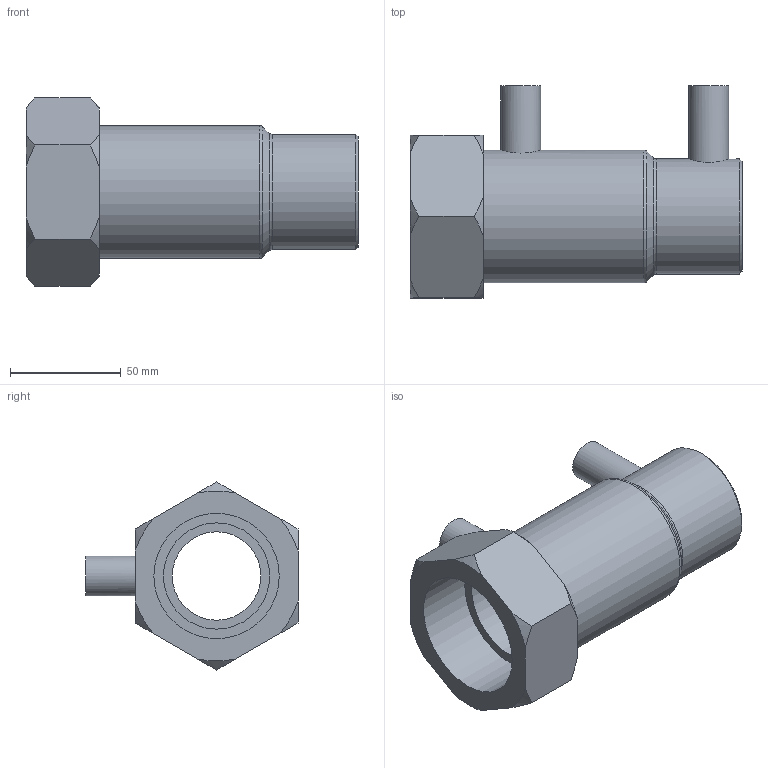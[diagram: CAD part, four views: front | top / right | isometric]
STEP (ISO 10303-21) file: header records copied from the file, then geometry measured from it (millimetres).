
FILE_DESCRIPTION(/* description */ ('Plasson Female Transition Reducer 40 x 2"'),/* implementation_level */ '2;1');
FILE_NAME(/* name */ 'C:\Dropbox\99-16-3568-Processing\ElectroFusion Fittings\493104-R\493104040020.ipt.stp',/* time_stamp */ '2021-03-07T20:11:19+02:00',/* author */ ('Lenora'),/* organization */ (''),/* preprocessor_version */ 'ST-DEVELOPER v17.2',/* originating_system */ 'Autodesk Inventor 2019',/* authorisation */ '');
FILE_SCHEMA (('AUTOMOTIVE_DESIGN { 1 0 10303 214 3 1 1 }'));
Length unit declared in the file: millimetre
Products named in the file (1): 493104040020
Bounding box: 150 x 95.8 x 84.98 mm (x, y, z)
Volume: 201809.4 mm3; surface area: 62620.7 mm2
Topology: 1 solids, 1 shells, 40 faces, 112 edges, 81 vertices
Faces by surface type: plane 15, cone 14, cylinder 9, torus 2
Full cylindrical faces by diameter (mm): 12 x2, 18 x2, 40 x1, 48 x1, 52 x1, 56.656 x1, 60 x1
Entity records: 1424 total; most frequent: CARTESIAN_POINT 350, ORIENTED_EDGE 224, DIRECTION 221, EDGE_CURVE 112, AXIS2_PLACEMENT_3D 96, VERTEX_POINT 81, CIRCLE 55, EDGE_LOOP 49
